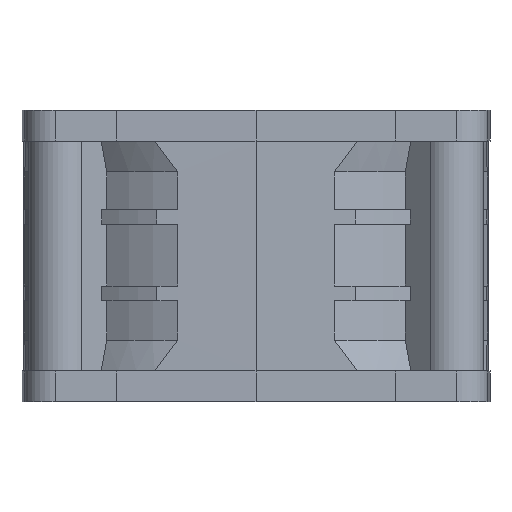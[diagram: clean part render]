
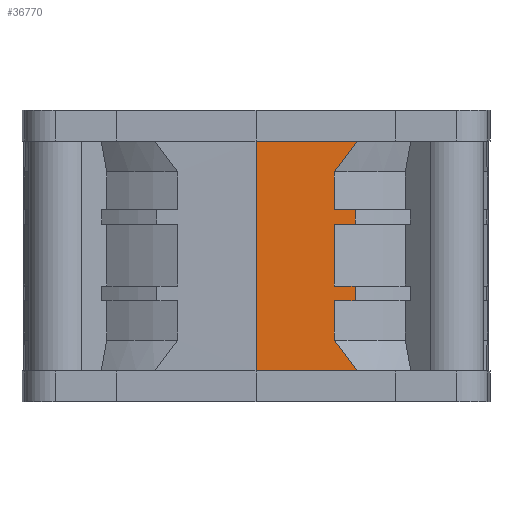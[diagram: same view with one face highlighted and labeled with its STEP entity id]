
A CAD part, front view. The second image highlights one B-rep face of the part: STEP entity #36770.
In plain terms, the highlighted face is a extrusion surface.
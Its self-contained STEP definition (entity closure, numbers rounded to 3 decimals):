
#26021=CARTESIAN_POINT('',(0.,-30.281,-10.156));
#26026=CARTESIAN_POINT('',(13.173,-30.034,-10.156));
#26027=CARTESIAN_POINT('',(8.778,-30.121,-10.156));
#26028=CARTESIAN_POINT('',(4.388,-30.281,-10.156));
#26029=CARTESIAN_POINT('',(0.,-30.281,-10.156));
#26940=CARTESIAN_POINT('',(0.,-30.281,19.796));
#26941=CARTESIAN_POINT('',(4.388,-30.281,19.796));
#26942=CARTESIAN_POINT('',(8.778,-30.121,19.796));
#26943=CARTESIAN_POINT('',(13.173,-30.034,19.796));
#27569=DIRECTION('',(0.,0.,1.));
#27570=VECTOR('',#27569,1.911);
#27571=CARTESIAN_POINT('',(12.908,-30.039,8.958));
#27572=LINE('',#27571,#27570);
#27573=DIRECTION('',(0.,0.,1.));
#27574=VECTOR('',#27573,8.048);
#27575=CARTESIAN_POINT('',(10.224,-30.1,0.91));
#27576=LINE('',#27575,#27574);
#27577=DIRECTION('',(0.,0.,1.));
#27578=VECTOR('',#27577,1.911);
#27579=CARTESIAN_POINT('',(12.908,-30.039,-1.001));
#27580=LINE('',#27579,#27578);
#27581=DIRECTION('',(0.,0.,1.));
#27582=VECTOR('',#27581,5.131);
#27583=CARTESIAN_POINT('',(10.224,-30.1,-6.132));
#27584=LINE('',#27583,#27582);
#27585=CARTESIAN_POINT('',(13.173,-30.034,-10.156));
#27586=CARTESIAN_POINT('',(12.858,-30.04,
-9.674));
#27587=CARTESIAN_POINT('',(12.222,-30.053,
-8.731));
#27588=CARTESIAN_POINT('',(11.244,-30.076,
-7.39));
#27589=CARTESIAN_POINT('',(10.569,-30.092,
-6.543));
#27590=CARTESIAN_POINT('',(10.224,-30.1,-6.132));
#27592=DIRECTION('',(0.,0.,1.));
#27593=VECTOR('',#27592,4.903);
#27594=CARTESIAN_POINT('',(10.224,-30.1,10.869));
#27595=LINE('',#27594,#27593);
#27610=CARTESIAN_POINT('',(10.224,-30.1,10.869));
#27611=CARTESIAN_POINT('',(11.119,-30.078,10.869));
#27612=CARTESIAN_POINT('',(12.013,-30.057,10.869));
#27613=CARTESIAN_POINT('',(12.908,-30.039,10.869));
#27619=CARTESIAN_POINT('',(13.173,-30.034,19.796));
#27620=CARTESIAN_POINT('',(12.86,-30.04,
19.315));
#27621=CARTESIAN_POINT('',(12.225,-30.053,
18.375));
#27622=CARTESIAN_POINT('',(11.247,-30.076,
17.034));
#27623=CARTESIAN_POINT('',(10.57,-30.092,
16.184));
#27624=CARTESIAN_POINT('',(10.224,-30.1,15.772));
#27652=CARTESIAN_POINT('',(12.908,-30.039,8.958));
#27653=CARTESIAN_POINT('',(12.013,-30.057,8.958));
#27654=CARTESIAN_POINT('',(11.119,-30.078,8.958));
#27655=CARTESIAN_POINT('',(10.224,-30.1,8.958));
#27675=CARTESIAN_POINT('',(10.224,-30.1,0.91));
#27676=CARTESIAN_POINT('',(11.119,-30.078,0.91));
#27677=CARTESIAN_POINT('',(12.013,-30.057,0.91));
#27678=CARTESIAN_POINT('',(12.908,-30.039,0.91));
#27694=CARTESIAN_POINT('',(12.908,-30.039,-1.001));
#27695=CARTESIAN_POINT('',(12.013,-30.057,-1.001));
#27696=CARTESIAN_POINT('',(11.119,-30.078,-1.001));
#27697=CARTESIAN_POINT('',(10.224,-30.1,-1.001));
#27730=DIRECTION('',(0.,0.,1.));
#27731=VECTOR('',#27730,29.952);
#27732=CARTESIAN_POINT('',(0.,-30.281,-10.156));
#27733=LINE('',#27732,#27731);
#32192=VERTEX_POINT('',#26021);
#32194=CARTESIAN_POINT('',(0.,-30.281,19.796));
#32195=VERTEX_POINT('',#32194);
#32209=VERTEX_POINT('',#27610);
#32210=VERTEX_POINT('',#27613);
#32211=CARTESIAN_POINT('',(10.224,-30.1,15.772));
#32212=VERTEX_POINT('',#32211);
#32213=VERTEX_POINT('',#27619);
#32214=VERTEX_POINT('',#26026);
#32215=VERTEX_POINT('',#27590);
#32216=CARTESIAN_POINT('',(10.224,-30.1,-1.001));
#32217=VERTEX_POINT('',#32216);
#32218=VERTEX_POINT('',#27694);
#32219=CARTESIAN_POINT('',(12.908,-30.039,0.91));
#32220=VERTEX_POINT('',#32219);
#32221=VERTEX_POINT('',#27675);
#32222=CARTESIAN_POINT('',(10.224,-30.1,8.958));
#32223=VERTEX_POINT('',#32222);
#32224=VERTEX_POINT('',#27652);
#36734=CARTESIAN_POINT('',(-0.132,-30.281,-14.18));
#36735=CARTESIAN_POINT('',(-0.088,-30.281,-14.18));
#36736=CARTESIAN_POINT('',(4.388,-30.282,-14.18));
#36737=CARTESIAN_POINT('',(8.866,-30.118,-14.18));
#36738=CARTESIAN_POINT('',(13.305,-30.031,-14.18));
#36740=DIRECTION('',(0.,0.,1.));
#36741=VECTOR('',#36740,1.);
#36742=SURFACE_OF_LINEAR_EXTRUSION('',#36739,#36741);
#36744=ORIENTED_EDGE('',*,*,#36743,.T.);
#36746=ORIENTED_EDGE('',*,*,#36745,.F.);
#36748=ORIENTED_EDGE('',*,*,#36747,.T.);
#36750=ORIENTED_EDGE('',*,*,#36749,.F.);
#36752=ORIENTED_EDGE('',*,*,#36751,.T.);
#36754=ORIENTED_EDGE('',*,*,#36753,.F.);
#36756=ORIENTED_EDGE('',*,*,#36755,.T.);
#36758=ORIENTED_EDGE('',*,*,#36757,.F.);
#36759=ORIENTED_EDGE('',*,*,#36727,.F.);
#36760=ORIENTED_EDGE('',*,*,#35267,.T.);
#36762=ORIENTED_EDGE('',*,*,#36761,.T.);
#36763=ORIENTED_EDGE('',*,*,#35793,.T.);
#36765=ORIENTED_EDGE('',*,*,#36764,.T.);
#36767=ORIENTED_EDGE('',*,*,#36766,.F.);
#36768=EDGE_LOOP('',(#36744,#36746,#36748,#36750,#36752,#36754,#36756,#36758,
#36759,#36760,#36762,#36763,#36765,#36767));
#36769=FACE_OUTER_BOUND('',#36768,.F.);
#36770=ADVANCED_FACE('',(#36769),#36742,.T.);
#26030=B_SPLINE_CURVE_WITH_KNOTS('',3,(#26026,#26027,#26028,#26029),
.UNSPECIFIED.,.F.,.F.,(4,4),(0.,1.),.UNSPECIFIED.);
#26944=B_SPLINE_CURVE_WITH_KNOTS('',3,(#26940,#26941,#26942,#26943),
.UNSPECIFIED.,.F.,.F.,(4,4),(0.,1.),.UNSPECIFIED.);
#27591=B_SPLINE_CURVE_WITH_KNOTS('',3,(#27585,#27586,#27587,#27588,#27589,
#27590),.UNSPECIFIED.,.F.,.F.,(4,1,1,4),(0.,0.333,
0.667,1.),.UNSPECIFIED.);
#27614=B_SPLINE_CURVE_WITH_KNOTS('',3,(#27610,#27611,#27612,#27613),
.UNSPECIFIED.,.F.,.F.,(4,4),(0.,1.),.UNSPECIFIED.);
#27625=B_SPLINE_CURVE_WITH_KNOTS('',3,(#27619,#27620,#27621,#27622,#27623,
#27624),.UNSPECIFIED.,.F.,.F.,(4,1,1,4),(0.,0.333,
0.667,1.),.UNSPECIFIED.);
#27656=B_SPLINE_CURVE_WITH_KNOTS('',3,(#27652,#27653,#27654,#27655),
.UNSPECIFIED.,.F.,.F.,(4,4),(0.,1.),.UNSPECIFIED.);
#27679=B_SPLINE_CURVE_WITH_KNOTS('',3,(#27675,#27676,#27677,#27678),
.UNSPECIFIED.,.F.,.F.,(4,4),(0.,1.),.UNSPECIFIED.);
#27698=B_SPLINE_CURVE_WITH_KNOTS('',3,(#27694,#27695,#27696,#27697),
.UNSPECIFIED.,.F.,.F.,(4,4),(0.,1.),.UNSPECIFIED.);
#35267=EDGE_CURVE('',#32214,#32192,#26030,.T.);
#35793=EDGE_CURVE('',#32195,#32213,#26944,.T.);
#36727=EDGE_CURVE('',#32214,#32215,#27591,.T.);
#36739=B_SPLINE_CURVE_WITH_KNOTS('',3,(#36734,#36735,#36736,#36737,#36738),
.UNSPECIFIED.,.F.,.F.,(4,1,4),(0.,0.01,1.),.UNSPECIFIED.);
#36743=EDGE_CURVE('',#32209,#32210,#27614,.T.);
#36745=EDGE_CURVE('',#32224,#32210,#27572,.T.);
#36747=EDGE_CURVE('',#32224,#32223,#27656,.T.);
#36749=EDGE_CURVE('',#32221,#32223,#27576,.T.);
#36751=EDGE_CURVE('',#32221,#32220,#27679,.T.);
#36753=EDGE_CURVE('',#32218,#32220,#27580,.T.);
#36755=EDGE_CURVE('',#32218,#32217,#27698,.T.);
#36757=EDGE_CURVE('',#32215,#32217,#27584,.T.);
#36761=EDGE_CURVE('',#32192,#32195,#27733,.T.);
#36764=EDGE_CURVE('',#32213,#32212,#27625,.T.);
#36766=EDGE_CURVE('',#32209,#32212,#27595,.T.);
